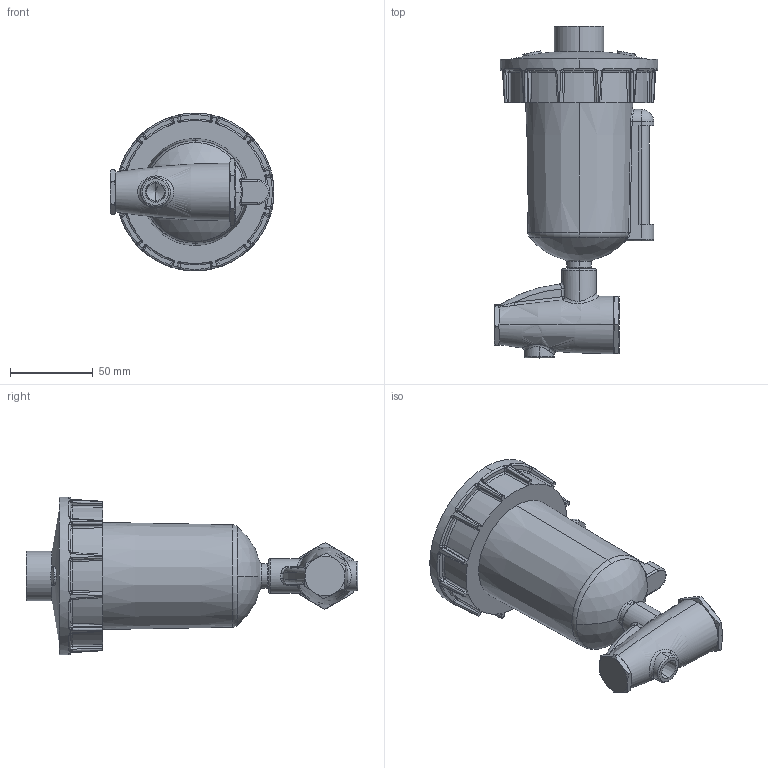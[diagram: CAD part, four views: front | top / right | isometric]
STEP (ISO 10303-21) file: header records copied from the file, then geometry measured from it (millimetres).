
FILE_DESCRIPTION (( 'STEP AP203' ), '1' );
FILE_NAME ('D608W-04.STEP', '2016-01-14T18:30:48', ( '' ), ( '' ), 'SwSTEP 2.0', 'SolidWorks 2014', '' );
FILE_SCHEMA (( 'CONFIG_CONTROL_DESIGN' ));
Length unit declared in the file: millimetre
Products named in the file (6): D608W-04-2; L606-W-06-2; D608W-04; D608W-04-1; D608W-04-3
Assembly tree (5 placements, depth 2):
  D608W-04
    D608W-04-1
    D608W-04-2
    D608W-04-3
    D608W-04
    L606-W-06-2
Bounding box: 99.25 x 201 x 95.5 mm (x, y, z)
Volume: 542025.9 mm3; surface area: 60929.9 mm2
Topology: 5 solids, 5 shells, 368 faces, 917 edges, 537 vertices
Faces by surface type: bspline 111, plane 75, cylinder 67, torus 45, cone 40, sphere 30
Entity records: 15686 total; most frequent: CARTESIAN_POINT 7463, ORIENTED_EDGE 1774, DIRECTION 1405, EDGE_CURVE 887, AXIS2_PLACEMENT_3D 622, VERTEX_POINT 536, EDGE_LOOP 375, ADVANCED_FACE 368
